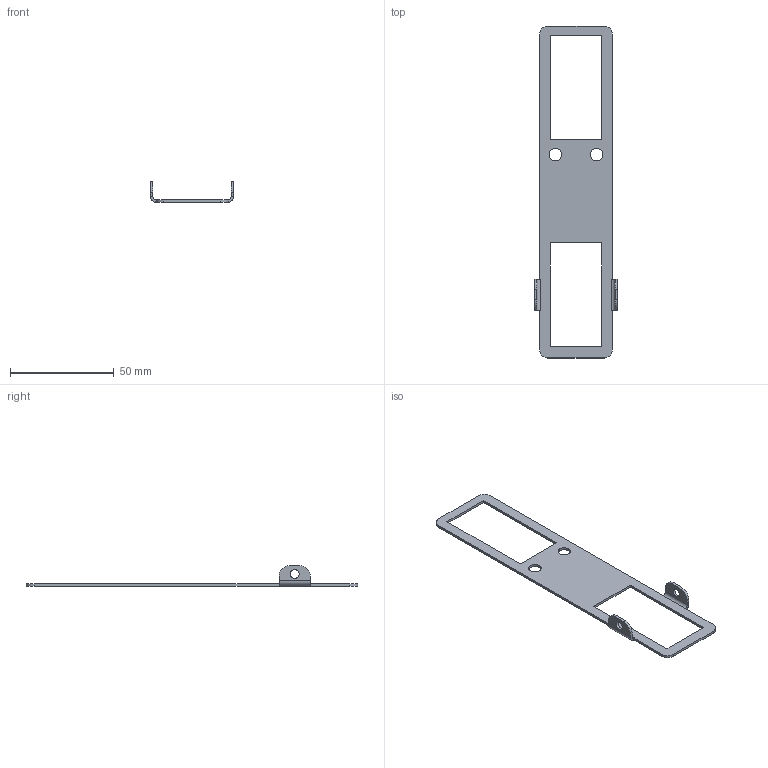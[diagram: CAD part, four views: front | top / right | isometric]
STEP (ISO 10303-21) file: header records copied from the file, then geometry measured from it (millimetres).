
FILE_DESCRIPTION (( 'STEP AP214' ), '1' );
FILE_NAME ('PC 1 LH.M Êîìïëåêò äëÿ ïëîìáèðîâàíèÿ.STEP', '2020-09-25T07:43:52', ( '' ), ( '' ), 'SwSTEP 2.0', 'SolidWorks 2018', '' );
FILE_SCHEMA (( 'AUTOMOTIVE_DESIGN' ));
Length unit declared in the file: millimetre
Products named in the file (1): PC 1 LH.M Êîìïëåêò äëÿ ïëîìáèðîâàíèÿ
Bounding box: 40 x 160 x 10 mm (x, y, z)
Volume: 3951 mm3; surface area: 7521.3 mm2
Topology: 1 solids, 1 shells, 54 faces, 144 edges, 92 vertices
Faces by surface type: plane 34, cylinder 20
Entity records: 1734 total; most frequent: DIRECTION 298, CARTESIAN_POINT 291, ORIENTED_EDGE 288, EDGE_CURVE 144, VECTOR 100, LINE 100, AXIS2_PLACEMENT_3D 99, VERTEX_POINT 92
